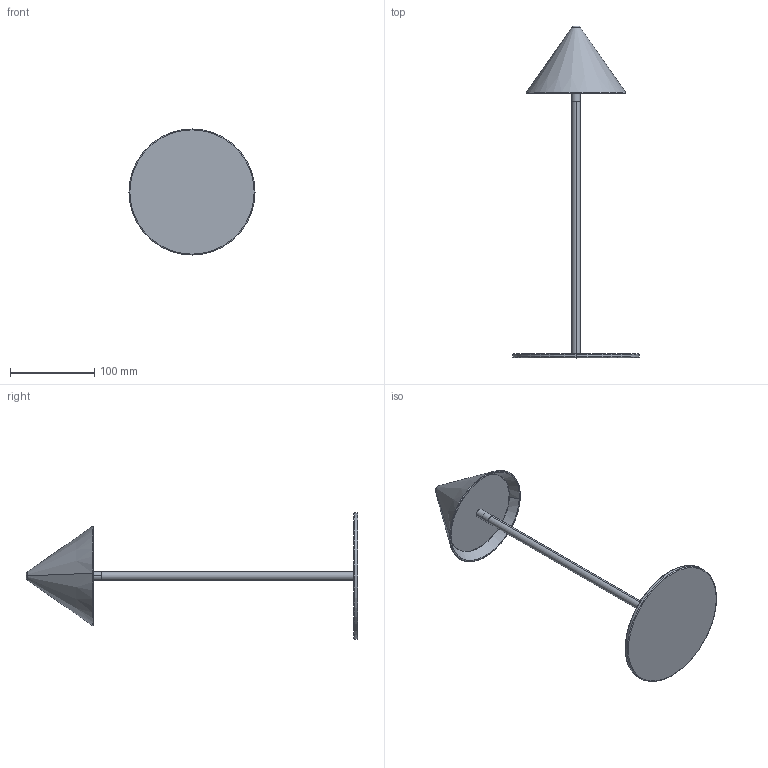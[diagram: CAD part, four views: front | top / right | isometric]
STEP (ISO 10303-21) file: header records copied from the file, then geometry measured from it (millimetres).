
FILE_DESCRIPTION (( 'STEP AP214' ), '1' );
FILE_NAME ('SOBREMESA ANZA.STEP', '2024-10-14T15:25:14', ( '' ), ( '' ), 'SwSTEP 2.0', 'SolidWorks 2018', '' );
FILE_SCHEMA (( 'AUTOMOTIVE_DESIGN' ));
Length unit declared in the file: millimetre
Products named in the file (3): BASE SOBREMESA; SOBREMESA ANZA; tulipa arriba
Assembly tree (2 placements, depth 2):
  SOBREMESA ANZA
    BASE SOBREMESA
    tulipa arriba
Bounding box: 150 x 395 x 150 mm (x, y, z)
Volume: 154523.3 mm3; surface area: 102601.9 mm2
Topology: 5 solids, 5 shells, 34 faces, 58 edges, 36 vertices
Faces by surface type: plane 12, torus 8, cylinder 8, cone 6
Entity records: 959 total; most frequent: DIRECTION 180, CARTESIAN_POINT 133, ORIENTED_EDGE 116, AXIS2_PLACEMENT_3D 83, EDGE_CURVE 58, CIRCLE 44, VERTEX_POINT 36, EDGE_LOOP 36
